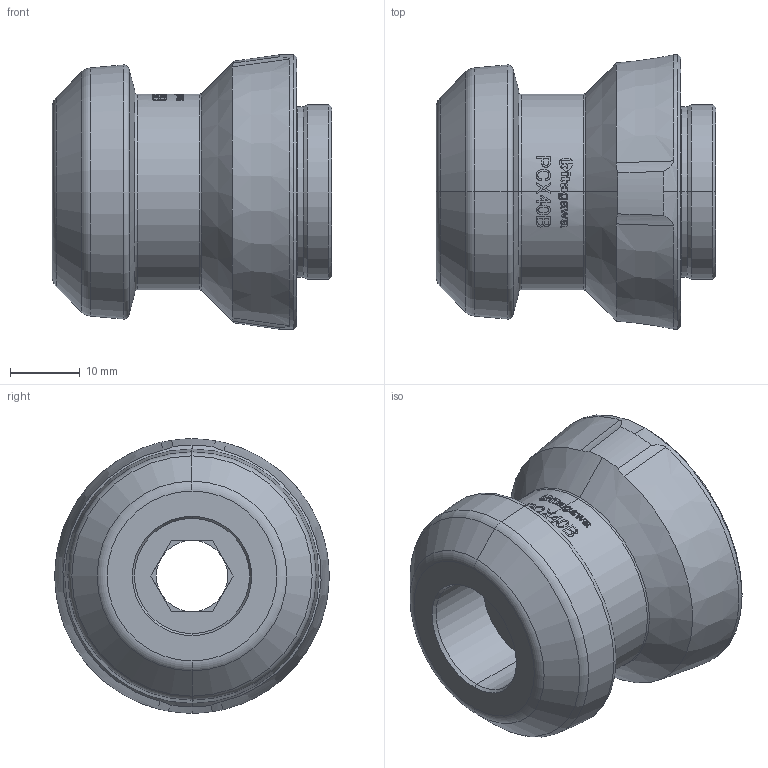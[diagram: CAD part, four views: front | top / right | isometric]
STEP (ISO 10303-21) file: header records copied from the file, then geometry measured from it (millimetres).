
FILE_DESCRIPTION (( 'STEP AP203' ), '1' );
FILE_NAME ('61P293307.STEP', '2024-04-26T01:32:18', ( '' ), ( '' ), 'SwSTEP 2.0', 'SolidWorks 2022', '' );
FILE_SCHEMA (( 'CONFIG_CONTROL_DESIGN' ));
Length unit declared in the file: millimetre
Products named in the file (1): 61P293307
Bounding box: 40 x 39.3 x 39.3 mm (x, y, z)
Volume: 28397.2 mm3; surface area: 7769.4 mm2
Topology: 1 solids, 1 shells, 96 faces, 898 edges, 830 vertices
Faces by surface type: cylinder 42, cone 23, plane 17, torus 12, bspline 2
Entity records: 9747 total; most frequent: CARTESIAN_POINT 4407, ORIENTED_EDGE 1796, EDGE_CURVE 898, VERTEX_POINT 830, DIRECTION 600, AXIS2_PLACEMENT_3D 243, CIRCLE 148, EDGE_LOOP 124
